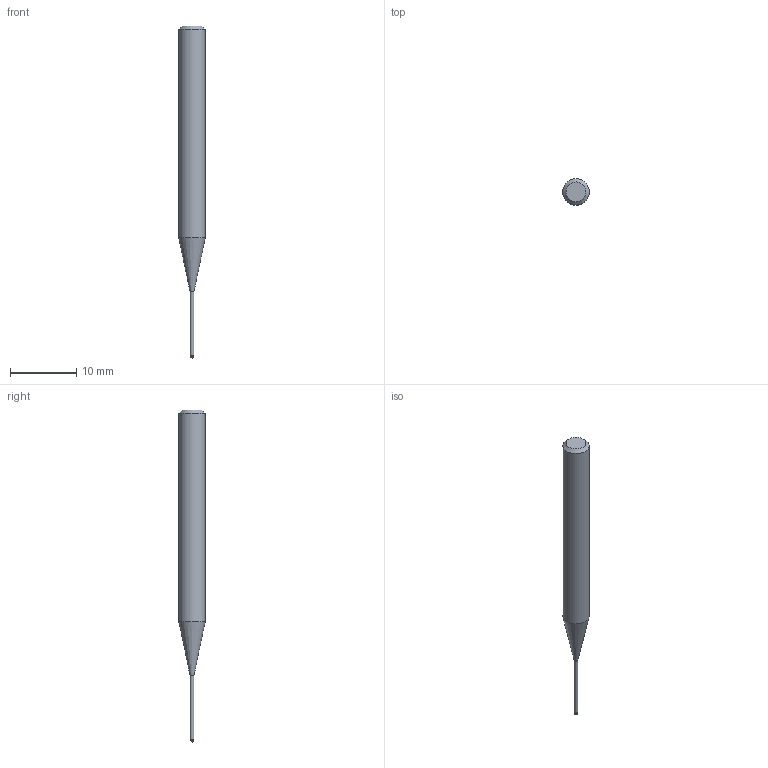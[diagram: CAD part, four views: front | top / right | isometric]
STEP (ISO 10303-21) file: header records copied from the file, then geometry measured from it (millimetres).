
FILE_DESCRIPTION((''),'2;1');
FILE_NAME('C:\Users\nsx150\AppData\Local\Temp\Mastercam 2021\ZXBT0ST9RL\TEMP.step','2021-06-25T11:02:39',(''),(''),'STEP Write','Mastercam 2021 ... CNC Software, Inc.','');
FILE_SCHEMA(('AUTOMOTIVE_DESIGN'));
Length unit declared in the file: millimetre
Products named in the file (1): None
Bounding box: 4 x 4 x 50 mm (x, y, z)
Volume: 441.3 mm3; surface area: 487 mm2
Topology: 2 solids, 2 shells, 9 faces, 14 edges, 8 vertices
Faces by surface type: plane 3, cylinder 3, cone 2, sphere 1
Full cylindrical faces by diameter (mm): 0.56 x1, 0.6 x1, 4 x1
Entity records: 211 total; most frequent: DIRECTION 36, CARTESIAN_POINT 25, AXIS2_PLACEMENT_3D 18, ORIENTED_EDGE 14, EDGE_LOOP 14, STYLED_ITEM 12, ADVANCED_FACE 9, FACE_BOUND 8
